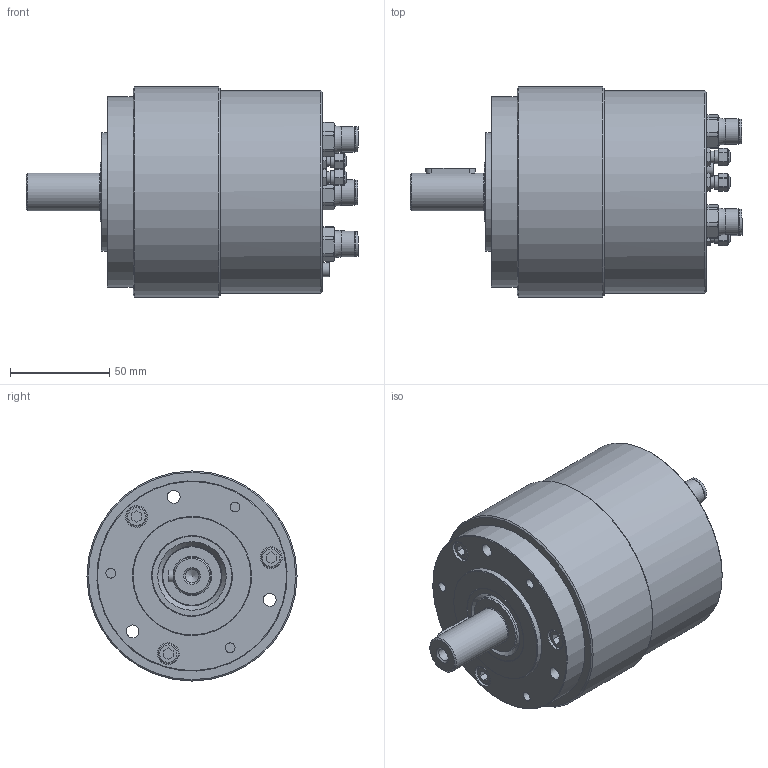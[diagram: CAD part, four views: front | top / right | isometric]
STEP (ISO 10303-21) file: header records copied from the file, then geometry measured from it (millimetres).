
FILE_DESCRIPTION(/* description */ (''),/* implementation_level */ '2;1');
FILE_NAME(/* name */ 'G:\02 CAD Dateien\02 - CAD Schrittmotoren BPS\01 - Standart Produkte\BPS 2532\Verkaufsunterlagen\STEP ab JULI 2017\500-25-318 Schrittmotor BPS-2532IP-SA.stp',/* time_stamp */ '2017-12-21T10:26:29+01:00',/* author */ ('RSc'),/* organization */ (''),/* preprocessor_version */ 'ST-DEVELOPER v16.1',/* originating_system */ 'Autodesk Inventor 2016',/* authorisation */ '');
FILE_SCHEMA (('AUTOMOTIVE_DESIGN { 1 0 10303 214 3 1 1 }'));
Length unit declared in the file: millimetre
Products named in the file (1): 500-25-318 Schrittmotor BPS-2532IP-SA
Bounding box: 167.5 x 106 x 106 mm (x, y, z)
Volume: 912591.7 mm3; surface area: 74757.5 mm2
Topology: 1 solids, 15 shells, 582 faces, 1390 edges, 915 vertices
Faces by surface type: plane 266, cylinder 167, cone 84, torus 33, bspline 31, sphere 1
Full cylindrical faces by diameter (mm): 2 x3, 2.7 x3, 3.6 x3, 4 x1, 4.7 x3, 4.773 x3, 4.8 x6, 4.917 x3, 4.92 x3, 5.93 x3, 6 x3, 6.2 x3, 6.38 x3, 6.5 x6, 6.65 x1, 6.84 x3, 7 x1, 7.9 x6, 8 x3, 9 x1, 10 x6, 10.5 x3, 11 x6, 12.5 x3, 13 x3, 19 x1, 20 x1, 30 x1, 40 x1, 60 x1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
Entity records: 16799 total; most frequent: CARTESIAN_POINT 3721, DIRECTION 2549, ORIENTED_EDGE 2374, EDGE_CURVE 1187, AXIS2_PLACEMENT_3D 994, VERTEX_POINT 866, EDGE_LOOP 845, FACE_OUTER_BOUND 582
